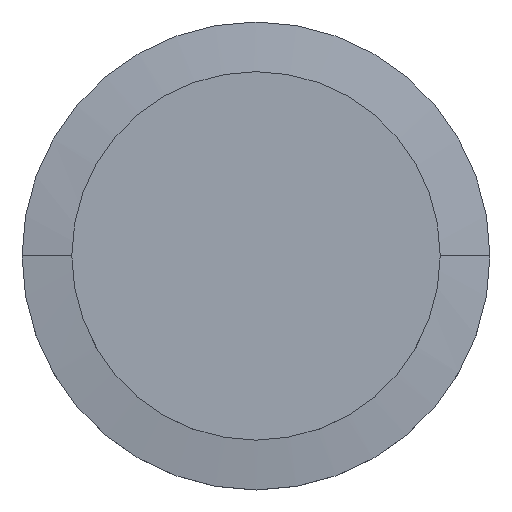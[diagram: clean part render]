
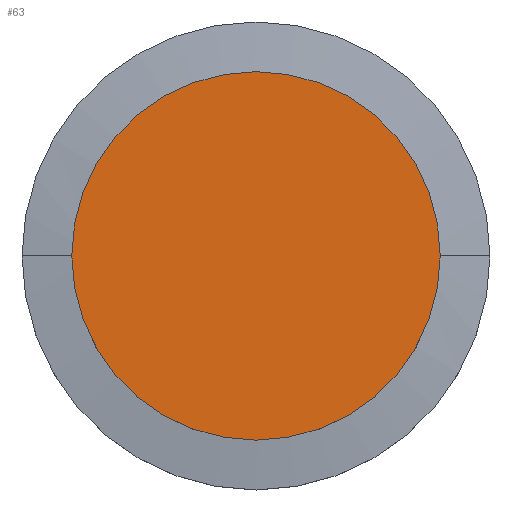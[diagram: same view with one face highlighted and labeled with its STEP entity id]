
A CAD part, top view. The second image highlights one B-rep face of the part: STEP entity #63.
In plain terms, the highlighted planar face has unit normal (0, 0, 1).
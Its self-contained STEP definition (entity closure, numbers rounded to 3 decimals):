
#63=ADVANCED_FACE('',(#83),#84,.T.);
#83=FACE_OUTER_BOUND('',#103,.T.);
#84=PLANE('',#104);
#103=EDGE_LOOP('',(#162,#163));
#104=AXIS2_PLACEMENT_3D('',#164,#165,#166);
#162=ORIENTED_EDGE('',*,*,#180,.T.);
#163=ORIENTED_EDGE('',*,*,#181,.T.);
#164=CARTESIAN_POINT('',(0.0,0.0,9.5));
#165=DIRECTION('',(0.0,0.0,1.0));
#166=DIRECTION('',(1.0,0.0,0.0));
#180=EDGE_CURVE('',#200,#204,#206,.T.);
#181=EDGE_CURVE('',#204,#200,#207,.T.);
#200=VERTEX_POINT('',#228);
#204=VERTEX_POINT('',#233);
#206=CIRCLE('',#236,10.0);
#207=CIRCLE('',#237,10.0);
#228=CARTESIAN_POINT('',(10.0,0.0,9.5));
#233=CARTESIAN_POINT('',(-10.0,0.,9.5));
#236=AXIS2_PLACEMENT_3D('',#270,#271,#272);
#237=AXIS2_PLACEMENT_3D('',#273,#274,#275);
#270=CARTESIAN_POINT('',(0.0,0.0,9.5));
#271=DIRECTION('',(0.0,0.0,1.0));
#272=DIRECTION('',(1.0,0.0,0.0));
#273=CARTESIAN_POINT('',(0.0,0.0,9.5));
#274=DIRECTION('',(0.0,0.0,1.0));
#275=DIRECTION('',(1.0,0.0,0.0));
